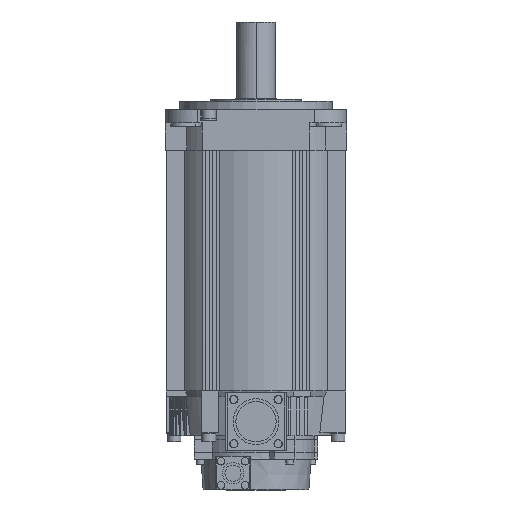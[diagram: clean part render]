
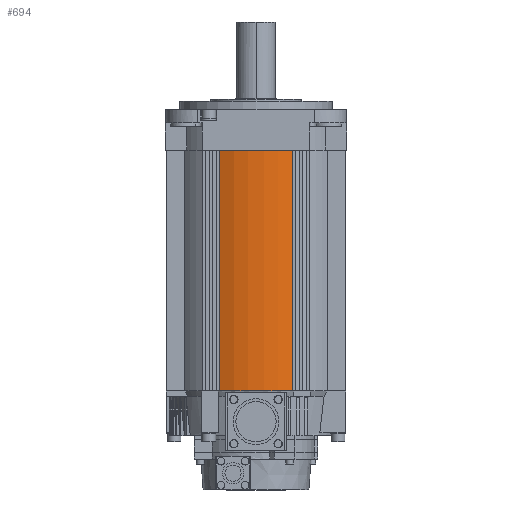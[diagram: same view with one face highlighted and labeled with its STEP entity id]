
A CAD part, front view. The second image highlights one B-rep face of the part: STEP entity #694.
In plain terms, the highlighted cylindrical face has radius 64 mm (diameter 128 mm), a partial arc.
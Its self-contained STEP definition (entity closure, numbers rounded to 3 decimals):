
#591 = ORIENTED_EDGE ( 'NONE', *, *, #596, .F. ) ;
#596 = EDGE_CURVE ( 'NONE', #677, #616, #19531, .T. ) ;
#615 = EDGE_CURVE ( 'NONE', #616, #21880, #19563, .T. ) ;
#616 = VERTEX_POINT ( 'NONE', #19559 ) ;
#641 = ORIENTED_EDGE ( 'NONE', *, *, #615, .F. ) ;
#660 = ORIENTED_EDGE ( 'NONE', *, *, #21914, .F. ) ;
#676 = ORIENTED_EDGE ( 'NONE', *, *, #689, .F. ) ;
#677 = VERTEX_POINT ( 'NONE', #19705 ) ;
#689 = EDGE_CURVE ( 'NONE', #22900, #677, #19693, .T. ) ;
#694 = ADVANCED_FACE ( 'NONE', ( #19680 ), #19743, .T. ) ;
#698 = EDGE_LOOP ( 'NONE', ( #676, #660, #641, #591 ) ) ;
#9227 = AXIS2_PLACEMENT_3D ( 'NONE', #22060, #12912, #12934 ) ;
#9231 = CIRCLE ( 'NONE', #9227, 64. ) ;
#9744 = CARTESIAN_POINT ( 'NONE',  ( 26.3, -58.346, -202. ) ) ;
#11590 = CARTESIAN_POINT ( 'NONE',  ( -26.3, -58.346, -202. ) ) ;
#12912 = DIRECTION ( 'NONE',  ( 0., 0., -1. ) ) ;
#12934 = DIRECTION ( 'NONE',  ( 1., 0., 0. ) ) ;
#19526 = DIRECTION ( 'NONE',  ( 1., 0., 0. ) ) ;
#19527 = DIRECTION ( 'NONE',  ( 0., 0., 1. ) ) ;
#19529 = CARTESIAN_POINT ( 'NONE',  ( 0., 0., -29. ) ) ;
#19530 = AXIS2_PLACEMENT_3D ( 'NONE', #19529, #19527, #19526 ) ;
#19531 = CIRCLE ( 'NONE', #19530, 64. ) ;
#19559 = CARTESIAN_POINT ( 'NONE',  ( 26.3, -58.346, -29. ) ) ;
#19560 = DIRECTION ( 'NONE',  ( 0., 0., -1. ) ) ;
#19561 = VECTOR ( 'NONE', #19560, 1000. ) ;
#19562 = CARTESIAN_POINT ( 'NONE',  ( 26.3, -58.346, -383.019 ) ) ;
#19563 = LINE ( 'NONE', #19562, #19561 ) ;
#19680 = FACE_OUTER_BOUND ( 'NONE', #698, .T. ) ;
#19690 = DIRECTION ( 'NONE',  ( 0., 0., 1. ) ) ;
#19691 = VECTOR ( 'NONE', #19690, 1000. ) ;
#19692 = CARTESIAN_POINT ( 'NONE',  ( -26.3, -58.346, -383.019 ) ) ;
#19693 = LINE ( 'NONE', #19692, #19691 ) ;
#19705 = CARTESIAN_POINT ( 'NONE',  ( -26.3, -58.346, -29. ) ) ;
#19738 = DIRECTION ( 'NONE',  ( 1., 0., 0. ) ) ;
#19739 = DIRECTION ( 'NONE',  ( 0., 0., 1. ) ) ;
#19740 = CARTESIAN_POINT ( 'NONE',  ( 0., 0., -383.019 ) ) ;
#19741 = AXIS2_PLACEMENT_3D ( 'NONE', #19740, #19739, #19738 ) ;
#19743 = CYLINDRICAL_SURFACE ( 'NONE', #19741, 64. ) ;
#21880 = VERTEX_POINT ( 'NONE', #9744 ) ;
#21914 = EDGE_CURVE ( 'NONE', #21880, #22900, #9231, .T. ) ;
#22060 = CARTESIAN_POINT ( 'NONE',  ( 0., 0., -202. ) ) ;
#22900 = VERTEX_POINT ( 'NONE', #11590 ) ;
